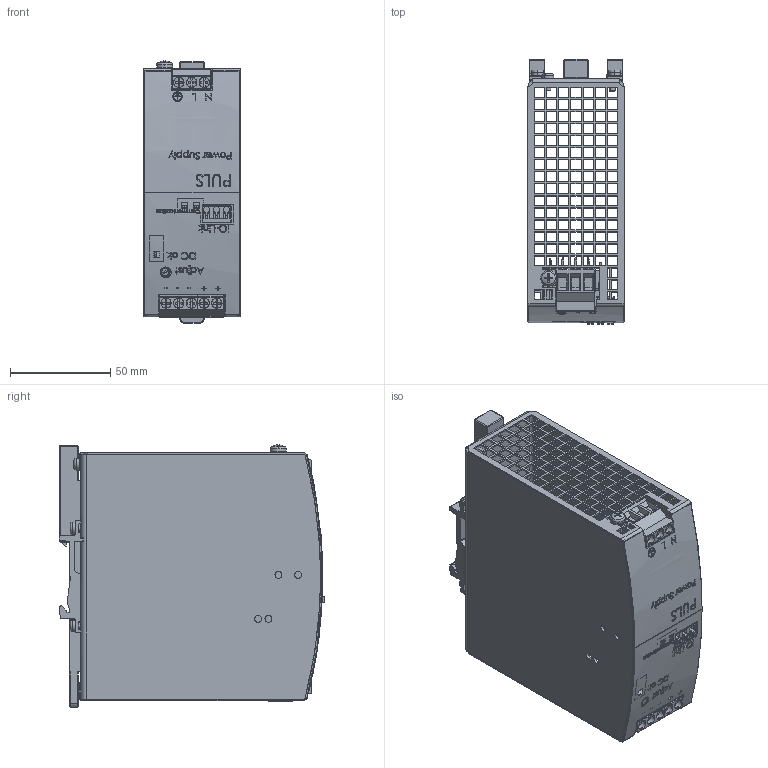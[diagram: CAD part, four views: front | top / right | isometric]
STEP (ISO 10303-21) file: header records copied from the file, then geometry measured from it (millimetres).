
FILE_DESCRIPTION (( 'STEP AP214' ), '1' );
FILE_NAME ('CP20.241-IOL.STP', '2024-03-14T13:48:39', ( '' ), ( '' ), 'SwSTEP 2.0', 'SolidWorks 2023', '' );
FILE_SCHEMA (( 'AUTOMOTIVE_DESIGN' ));
Length unit declared in the file: millimetre
Products named in the file (14): ED-4008_7985-10_Feat_Config; MKT_T HOLDER1; XT-LP3SW-16_BRep_Config; HOUSING-BODY-457_00_EW-426_992_18; XT-LP2BK-DD_BRep_Config; MKT_SLIDER_Feat_Config; ED-B40_127-A2_Feat_Config; MKT_POTI_BRep_Config; HOUSING-COVER-457_00_EW-457_991_00; MKT_LED2 GN_Feat_Config; FRONTFOIL-457_00_EL-457.940.00; MKT_SCREW 3x6_Feat_Config; CP20.241-IOL; MKT-LP3BK-D1_DUPLICATE_BRep_Config
Assembly tree (22 placements, depth 2):
  CP20.241-IOL
    HOUSING-BODY-457_00_EW-426_992_18
    HOUSING-COVER-457_00_EW-457_991_00
    FRONTFOIL-457_00_EL-457.940.00
    MKT_SCREW 3x6_Feat_Config  x6
    ED-B40_127-A2_Feat_Config
    ED-4008_7985-10_Feat_Config
    MKT_SLIDER_Feat_Config
    MKT_T HOLDER1  x2
    MKT-LP3BK-D1_DUPLICATE_BRep_Config  x2
    MKT_POTI_BRep_Config
    XT-LP3SW-16_BRep_Config
    MKT_LED2 GN_Feat_Config  x3
    XT-LP2BK-DD_BRep_Config
Bounding box: 48 x 132.4 x 130.92 mm (x, y, z)
Volume: 86135 mm3; surface area: 121905.4 mm2
Topology: 31 solids, 34 shells, 3276 faces, 8996 edges, 5909 vertices
Faces by surface type: plane 2402, cylinder 453, bspline 295, cone 91, torus 23, sphere 12
Entity records: 111858 total; most frequent: CARTESIAN_POINT 40775, ORIENTED_EDGE 15452, DIRECTION 12813, EDGE_CURVE 7726, LINE 6009, VECTOR 6009, VERTEX_POINT 5092, EDGE_LOOP 3412
